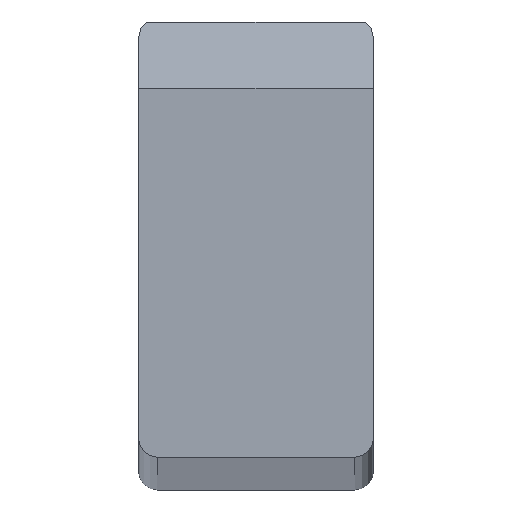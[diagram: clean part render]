
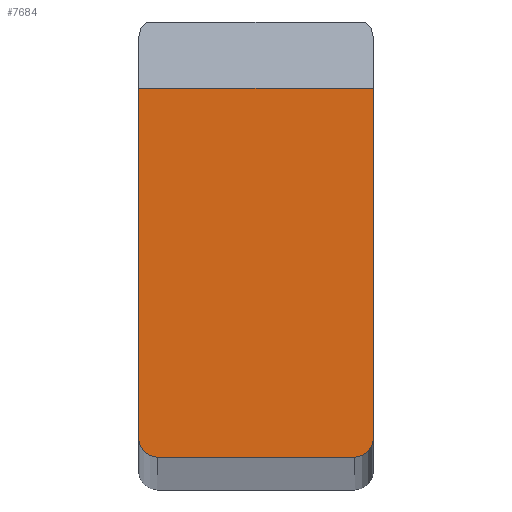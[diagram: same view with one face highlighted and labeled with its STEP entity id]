
A CAD part, top view. The second image highlights one B-rep face of the part: STEP entity #7684.
In plain terms, the highlighted planar face has unit normal (0, 0, 1).
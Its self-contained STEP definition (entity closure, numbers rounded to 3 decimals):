
#111 = DIRECTION ( 'NONE',  ( 0., 0., 1. ) ) ;
#2814 = PLANE ( 'NONE',  #13865 ) ;
#3133 = CARTESIAN_POINT ( 'NONE',  ( 0., 0., 1200. ) ) ;
#3987 = VECTOR ( 'NONE', #29128, 1000. ) ;
#4212 = VERTEX_POINT ( 'NONE', #37488 ) ;
#5305 = ORIENTED_EDGE ( 'NONE', *, *, #30719, .T. ) ;
#6040 = DIRECTION ( 'NONE',  ( 1., 0., 0. ) ) ;
#7245 = DIRECTION ( 'NONE',  ( 0., 0., 1. ) ) ;
#7684 = ADVANCED_FACE ( 'NONE', ( #26138 ), #2814, .F. ) ;
#8907 = EDGE_CURVE ( 'NONE', #4212, #32090, #26933, .T. ) ;
#11264 = VECTOR ( 'NONE', #28637, 1000. ) ;
#11549 = DIRECTION ( 'NONE',  ( 0., 0., -1. ) ) ;
#12143 = LINE ( 'NONE', #37352, #11264 ) ;
#12706 = EDGE_CURVE ( 'NONE', #16486, #24976, #14045, .T. ) ;
#13654 = EDGE_CURVE ( 'NONE', #28361, #16486, #12143, .T. ) ;
#13865 = AXIS2_PLACEMENT_3D ( 'NONE', #28734, #11549, #31705 ) ;
#14045 = CIRCLE ( 'NONE', #14735, 1.2 ) ;
#14095 = CARTESIAN_POINT ( 'NONE',  ( 0., 1.2, 1200. ) ) ;
#14185 = CARTESIAN_POINT ( 'NONE',  ( 0., 23.55, 1200. ) ) ;
#14735 = AXIS2_PLACEMENT_3D ( 'NONE', #17398, #111, #20262 ) ;
#15025 = LINE ( 'NONE', #3133, #29367 ) ;
#15240 = EDGE_CURVE ( 'NONE', #18892, #4212, #36883, .T. ) ;
#16486 = VERTEX_POINT ( 'NONE', #14095 ) ;
#17398 = CARTESIAN_POINT ( 'NONE',  ( 1.2, 1.2, 1200. ) ) ;
#18892 = VERTEX_POINT ( 'NONE', #30433 ) ;
#19500 = ORIENTED_EDGE ( 'NONE', *, *, #13654, .T. ) ;
#19528 = CARTESIAN_POINT ( 'NONE',  ( 0., 23.55, 1200. ) ) ;
#19997 = EDGE_LOOP ( 'NONE', ( #27963, #5305, #19500, #35083, #28020, #25581 ) ) ;
#20262 = DIRECTION ( 'NONE',  ( -1., 0., 0. ) ) ;
#24425 = CARTESIAN_POINT ( 'NONE',  ( 13.8, 1.2, 1200. ) ) ;
#24432 = LINE ( 'NONE', #14185, #26257 ) ;
#24976 = VERTEX_POINT ( 'NONE', #31375 ) ;
#25581 = ORIENTED_EDGE ( 'NONE', *, *, #15240, .T. ) ;
#26138 = FACE_OUTER_BOUND ( 'NONE', #19997, .T. ) ;
#26230 = CARTESIAN_POINT ( 'NONE',  ( 15., 0., 1200. ) ) ;
#26257 = VECTOR ( 'NONE', #31295, 1000. ) ;
#26933 = LINE ( 'NONE', #26230, #3987 ) ;
#27333 = DIRECTION ( 'NONE',  ( -1., 0., 0. ) ) ;
#27963 = ORIENTED_EDGE ( 'NONE', *, *, #8907, .T. ) ;
#28020 = ORIENTED_EDGE ( 'NONE', *, *, #31218, .T. ) ;
#28361 = VERTEX_POINT ( 'NONE', #19528 ) ;
#28637 = DIRECTION ( 'NONE',  ( 0., -1., 0. ) ) ;
#28734 = CARTESIAN_POINT ( 'NONE',  ( 0., 28., 1200. ) ) ;
#29128 = DIRECTION ( 'NONE',  ( 0., 1., 0. ) ) ;
#29367 = VECTOR ( 'NONE', #6040, 1000. ) ;
#30433 = CARTESIAN_POINT ( 'NONE',  ( 13.8, 0., 1200. ) ) ;
#30719 = EDGE_CURVE ( 'NONE', #32090, #28361, #24432, .T. ) ;
#31218 = EDGE_CURVE ( 'NONE', #24976, #18892, #15025, .T. ) ;
#31295 = DIRECTION ( 'NONE',  ( -1., 0., 0. ) ) ;
#31375 = CARTESIAN_POINT ( 'NONE',  ( 1.2, 0., 1200. ) ) ;
#31705 = DIRECTION ( 'NONE',  ( -1., 0., 0. ) ) ;
#31738 = AXIS2_PLACEMENT_3D ( 'NONE', #24425, #7245, #27333 ) ;
#32090 = VERTEX_POINT ( 'NONE', #33631 ) ;
#33631 = CARTESIAN_POINT ( 'NONE',  ( 15., 23.55, 1200. ) ) ;
#35083 = ORIENTED_EDGE ( 'NONE', *, *, #12706, .T. ) ;
#36883 = CIRCLE ( 'NONE', #31738, 1.2 ) ;
#37352 = CARTESIAN_POINT ( 'NONE',  ( 0., 0., 1200. ) ) ;
#37488 = CARTESIAN_POINT ( 'NONE',  ( 15., 1.2, 1200. ) ) ;
